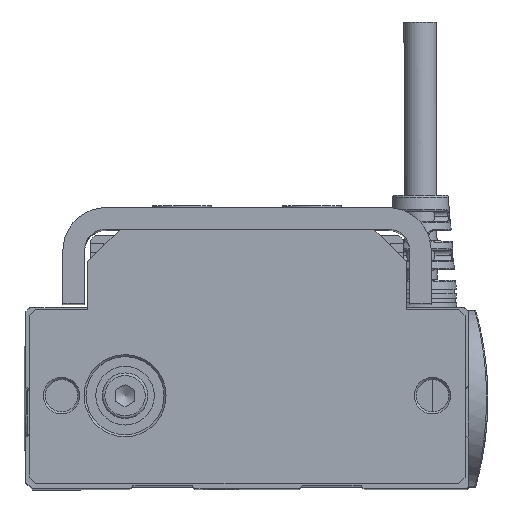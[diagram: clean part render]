
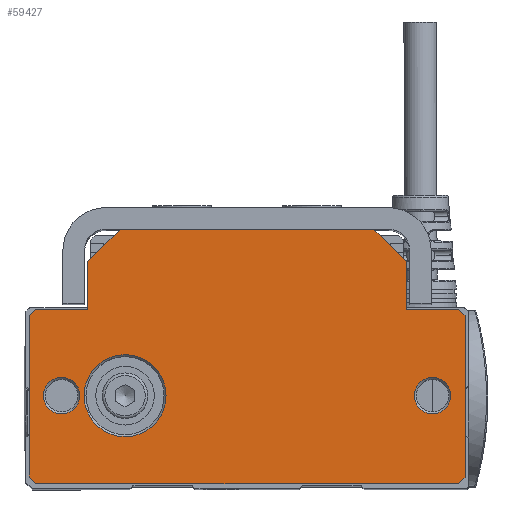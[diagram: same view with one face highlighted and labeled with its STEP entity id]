
A CAD part, top view. The second image highlights one B-rep face of the part: STEP entity #59427.
In plain terms, the highlighted planar face has unit normal (0, 0, 1).
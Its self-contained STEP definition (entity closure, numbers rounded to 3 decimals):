
#5216=FACE_BOUND('',#13025,.T.);
#5217=FACE_BOUND('',#13026,.T.);
#5218=FACE_BOUND('',#13027,.T.);
#6614=CIRCLE('',#64248,2.8);
#6615=CIRCLE('',#64249,2.8);
#6616=CIRCLE('',#64250,2.8);
#6617=CIRCLE('',#64251,2.8);
#6618=CIRCLE('',#64252,6.3);
#6619=CIRCLE('',#64253,6.3);
#9688=FACE_OUTER_BOUND('',#13024,.T.);
#13024=EDGE_LOOP('',(#46571,#46572,#46573,#46574,#46575,#46576,#46577,#46578,
#46579,#46580,#46581,#46582,#46583,#46584));
#13025=EDGE_LOOP('',(#46585,#46586));
#13026=EDGE_LOOP('',(#46587,#46588));
#13027=EDGE_LOOP('',(#46589,#46590));
#16993=LINE('',#98788,#21543);
#16995=LINE('',#98792,#21545);
#16998=LINE('',#98798,#21548);
#16999=LINE('',#98800,#21549);
#17000=LINE('',#98802,#21550);
#17001=LINE('',#98804,#21551);
#17002=LINE('',#98806,#21552);
#17003=LINE('',#98808,#21553);
#17004=LINE('',#98810,#21554);
#17005=LINE('',#98812,#21555);
#17006=LINE('',#98814,#21556);
#17007=LINE('',#98816,#21557);
#17008=LINE('',#98818,#21558);
#17009=LINE('',#98819,#21559);
#21543=VECTOR('',#74537,10.);
#21545=VECTOR('',#74541,1000.);
#21548=VECTOR('',#74546,1000.);
#21549=VECTOR('',#74547,10.);
#21550=VECTOR('',#74548,1000.);
#21551=VECTOR('',#74549,1000.);
#21552=VECTOR('',#74550,1000.);
#21553=VECTOR('',#74551,1000.);
#21554=VECTOR('',#74552,1000.);
#21555=VECTOR('',#74553,1000.);
#21556=VECTOR('',#74554,1000.);
#21557=VECTOR('',#74555,1000.);
#21558=VECTOR('',#74556,1000.);
#21559=VECTOR('',#74557,1000.);
#26777=VERTEX_POINT('',#98785);
#26778=VERTEX_POINT('',#98787);
#26779=VERTEX_POINT('',#98791);
#26781=VERTEX_POINT('',#98797);
#26782=VERTEX_POINT('',#98799);
#26783=VERTEX_POINT('',#98801);
#26784=VERTEX_POINT('',#98803);
#26785=VERTEX_POINT('',#98805);
#26786=VERTEX_POINT('',#98807);
#26787=VERTEX_POINT('',#98809);
#26788=VERTEX_POINT('',#98811);
#26789=VERTEX_POINT('',#98813);
#26790=VERTEX_POINT('',#98815);
#26791=VERTEX_POINT('',#98817);
#26792=VERTEX_POINT('',#98820);
#26793=VERTEX_POINT('',#98821);
#26794=VERTEX_POINT('',#98824);
#26795=VERTEX_POINT('',#98825);
#26796=VERTEX_POINT('',#98828);
#26797=VERTEX_POINT('',#98829);
#33912=EDGE_CURVE('',#26777,#26778,#16993,.T.);
#33914=EDGE_CURVE('',#26778,#26779,#16995,.T.);
#33917=EDGE_CURVE('',#26777,#26781,#16998,.T.);
#33918=EDGE_CURVE('',#26782,#26781,#16999,.T.);
#33919=EDGE_CURVE('',#26783,#26782,#17000,.T.);
#33920=EDGE_CURVE('',#26784,#26783,#17001,.T.);
#33921=EDGE_CURVE('',#26784,#26785,#17002,.T.);
#33922=EDGE_CURVE('',#26785,#26786,#17003,.T.);
#33923=EDGE_CURVE('',#26786,#26787,#17004,.T.);
#33924=EDGE_CURVE('',#26788,#26787,#17005,.T.);
#33925=EDGE_CURVE('',#26788,#26789,#17006,.T.);
#33926=EDGE_CURVE('',#26789,#26790,#17007,.T.);
#33927=EDGE_CURVE('',#26790,#26791,#17008,.T.);
#33928=EDGE_CURVE('',#26779,#26791,#17009,.T.);
#33929=EDGE_CURVE('',#26792,#26793,#6614,.T.);
#33930=EDGE_CURVE('',#26793,#26792,#6615,.T.);
#33931=EDGE_CURVE('',#26794,#26795,#6616,.T.);
#33932=EDGE_CURVE('',#26795,#26794,#6617,.T.);
#33933=EDGE_CURVE('',#26796,#26797,#6618,.T.);
#33934=EDGE_CURVE('',#26797,#26796,#6619,.T.);
#46571=ORIENTED_EDGE('',*,*,#33912,.F.);
#46572=ORIENTED_EDGE('',*,*,#33917,.T.);
#46573=ORIENTED_EDGE('',*,*,#33918,.F.);
#46574=ORIENTED_EDGE('',*,*,#33919,.F.);
#46575=ORIENTED_EDGE('',*,*,#33920,.F.);
#46576=ORIENTED_EDGE('',*,*,#33921,.T.);
#46577=ORIENTED_EDGE('',*,*,#33922,.T.);
#46578=ORIENTED_EDGE('',*,*,#33923,.T.);
#46579=ORIENTED_EDGE('',*,*,#33924,.F.);
#46580=ORIENTED_EDGE('',*,*,#33925,.T.);
#46581=ORIENTED_EDGE('',*,*,#33926,.T.);
#46582=ORIENTED_EDGE('',*,*,#33927,.T.);
#46583=ORIENTED_EDGE('',*,*,#33928,.F.);
#46584=ORIENTED_EDGE('',*,*,#33914,.F.);
#46585=ORIENTED_EDGE('',*,*,#33929,.T.);
#46586=ORIENTED_EDGE('',*,*,#33930,.T.);
#46587=ORIENTED_EDGE('',*,*,#33931,.T.);
#46588=ORIENTED_EDGE('',*,*,#33932,.T.);
#46589=ORIENTED_EDGE('',*,*,#33933,.T.);
#46590=ORIENTED_EDGE('',*,*,#33934,.T.);
#57062=PLANE('',#64247);
#59427=ADVANCED_FACE('',(#9688,#5216,#5217,#5218),#57062,.T.);
#64247=AXIS2_PLACEMENT_3D('',#98796,#74544,#74545);
#64248=AXIS2_PLACEMENT_3D('',#98822,#74558,#74559);
#64249=AXIS2_PLACEMENT_3D('',#98823,#74560,#74561);
#64250=AXIS2_PLACEMENT_3D('',#98826,#74562,#74563);
#64251=AXIS2_PLACEMENT_3D('',#98827,#74564,#74565);
#64252=AXIS2_PLACEMENT_3D('',#98830,#74566,#74567);
#64253=AXIS2_PLACEMENT_3D('',#98831,#74568,#74569);
#74537=DIRECTION('',(0.707,-0.707,0.));
#74541=DIRECTION('',(0.,-1.,0.));
#74544=DIRECTION('center_axis',(0.,0.,1.));
#74545=DIRECTION('ref_axis',(1.,0.,0.));
#74546=DIRECTION('',(-1.,0.,0.));
#74547=DIRECTION('',(0.707,0.707,0.));
#74548=DIRECTION('',(0.,1.,0.));
#74549=DIRECTION('',(1.,0.,0.));
#74550=DIRECTION('',(-0.707,-0.707,0.));
#74551=DIRECTION('',(0.,-1.,0.));
#74552=DIRECTION('',(0.707,-0.707,0.));
#74553=DIRECTION('',(-1.,0.,0.));
#74554=DIRECTION('',(0.707,0.707,0.));
#74555=DIRECTION('',(0.,1.,0.));
#74556=DIRECTION('',(-0.707,0.707,0.));
#74557=DIRECTION('',(1.,0.,0.));
#74558=DIRECTION('center_axis',(0.,0.,-1.));
#74559=DIRECTION('ref_axis',(1.,0.,0.));
#74560=DIRECTION('center_axis',(0.,0.,-1.));
#74561=DIRECTION('ref_axis',(1.,0.,0.));
#74562=DIRECTION('center_axis',(0.,0.,-1.));
#74563=DIRECTION('ref_axis',(1.,0.,0.));
#74564=DIRECTION('center_axis',(0.,0.,-1.));
#74565=DIRECTION('ref_axis',(1.,0.,0.));
#74566=DIRECTION('center_axis',(0.,0.,-1.));
#74567=DIRECTION('ref_axis',(1.,0.,0.));
#74568=DIRECTION('center_axis',(0.,0.,-1.));
#74569=DIRECTION('ref_axis',(1.,0.,0.));
#98785=CARTESIAN_POINT('',(19.5,19.575,0.));
#98787=CARTESIAN_POINT('',(24.5,14.575,0.));
#98788=CARTESIAN_POINT('',(20.769,18.306,0.));
#98791=CARTESIAN_POINT('',(24.5,7.275,0.));
#98792=CARTESIAN_POINT('',(24.5,20.025,0.));
#98796=CARTESIAN_POINT('Origin',(0.,0.,0.));
#98797=CARTESIAN_POINT('',(-19.5,19.575,0.));
#98798=CARTESIAN_POINT('',(-33.5,19.575,0.));
#98799=CARTESIAN_POINT('',(-24.5,14.575,0.));
#98800=CARTESIAN_POINT('',(-20.769,18.306,0.));
#98801=CARTESIAN_POINT('',(-24.5,7.275,0.));
#98802=CARTESIAN_POINT('',(-24.5,20.025,0.));
#98803=CARTESIAN_POINT('',(-32.5,7.275,0.));
#98804=CARTESIAN_POINT('',(-33.5,7.275,0.));
#98805=CARTESIAN_POINT('',(-33.5,6.275,0.));
#98806=CARTESIAN_POINT('',(-19.888,19.888,0.));
#98807=CARTESIAN_POINT('',(-33.5,-18.525,0.));
#98808=CARTESIAN_POINT('',(-33.5,20.025,0.));
#98809=CARTESIAN_POINT('',(-32.5,-19.525,0.));
#98810=CARTESIAN_POINT('',(-26.013,-26.012,0.));
#98811=CARTESIAN_POINT('',(32.5,-19.525,0.));
#98812=CARTESIAN_POINT('',(33.5,-19.525,0.));
#98813=CARTESIAN_POINT('',(33.5,-18.525,0.));
#98814=CARTESIAN_POINT('',(26.013,-26.012,0.));
#98815=CARTESIAN_POINT('',(33.5,6.275,0.));
#98816=CARTESIAN_POINT('',(33.5,20.025,0.));
#98817=CARTESIAN_POINT('',(32.5,7.275,0.));
#98818=CARTESIAN_POINT('',(19.888,19.888,0.));
#98819=CARTESIAN_POINT('',(33.5,7.275,0.));
#98820=CARTESIAN_POINT('',(31.3,-6.025,0.));
#98821=CARTESIAN_POINT('',(25.7,-6.025,0.));
#98822=CARTESIAN_POINT('Origin',(28.5,-6.025,0.));
#98823=CARTESIAN_POINT('Origin',(28.5,-6.025,0.));
#98824=CARTESIAN_POINT('',(-25.7,-6.025,0.));
#98825=CARTESIAN_POINT('',(-31.3,-6.025,0.));
#98826=CARTESIAN_POINT('Origin',(-28.5,-6.025,0.));
#98827=CARTESIAN_POINT('Origin',(-28.5,-6.025,0.));
#98828=CARTESIAN_POINT('',(-12.45,-6.025,0.));
#98829=CARTESIAN_POINT('',(-25.05,-6.025,0.));
#98830=CARTESIAN_POINT('Origin',(-18.75,-6.025,0.));
#98831=CARTESIAN_POINT('Origin',(-18.75,-6.025,0.));
